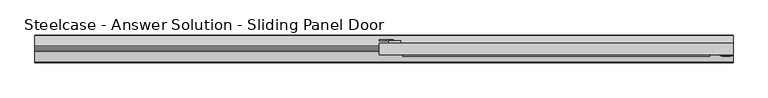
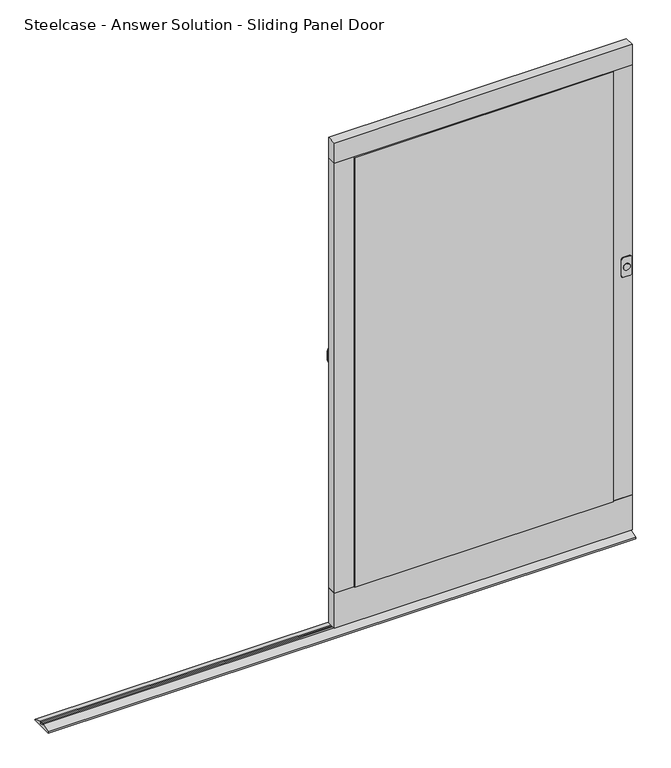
"""IFC4 building model written with IfcOpenShell, lengths in millimetres: furniture geometry."""

from ifc_helpers import new_model, si_unit, point, frame, frame_2d, origin, place, context, project, spatial, polyline, circle_curve, trimmed, segment, composite_curve, outline, extrude, source, transform, mapped, element, save


def steelcase_answer_solution_sliding_panel_door_c059b9e7(model_context):
    return source(origin(), model_context, "Body", "SweptSolid", [
        extrude(outline(composite_curve([segment(trimmed(circle_curve(frame_2d((927.0989028, 1835.4278402)), 10.7468772), [point((927.0989028, 1846.1747174))], [point((927.0989028, 1824.680963))], False, "CARTESIAN"), True, "CONTINUOUS"), segment(trimmed(circle_curve(frame_2d((927.0989028, 1835.4278402)), 10.7468772), [point((927.0989028, 1824.680963))], [point((927.0989028, 1846.1747174))], False, "CARTESIAN"), True, "CONTINUOUS")], self_intersect=False)), frame((0.0, -58.27776, 0.0), z_axis=(0.0, 1.0, 0.0), x_axis=(0.0, 0.0, 1.0)), (0.0, 0.0, 1.0), 2.159),
        extrude(outline(composite_curve([segment(polyline([(958.8489028, 927.2675713), (958.8489028, 908.2175713)]), True, "CONTINUOUS"), segment(trimmed(circle_curve(frame_2d((939.7989028, 908.2175713)), 19.05), [point((958.8489028, 908.2175713))], [point((939.7989028, 889.1675713))], False, "CARTESIAN"), True, "CONTINUOUS"), segment(polyline([(939.7989028, 889.1675713), (914.3989028, 889.1675713)]), True, "CONTINUOUS"), segment(trimmed(circle_curve(frame_2d((914.3989028, 908.2175713)), 19.05), [point((914.3989028, 889.1675713))], [point((895.3489028, 908.2175713))], False, "CARTESIAN"), True, "CONTINUOUS"), segment(polyline([(895.3489028, 908.2175713), (895.3489028, 927.2675713), (908.0489028, 927.2675713), (908.0489028, 908.2175713)]), True, "CONTINUOUS"), segment(trimmed(circle_curve(frame_2d((914.3989028, 908.2175713)), 6.35), [point((908.0489028, 908.2175713))], [point((914.3989028, 901.8675713))], True, "CARTESIAN"), True, "CONTINUOUS"), segment(polyline([(914.3989028, 901.8675713), (939.7989028, 901.8675713)]), True, "CONTINUOUS"), segment(trimmed(circle_curve(frame_2d((939.7989028, 908.2175713)), 6.35), [point((939.7989028, 901.8675713))], [point((946.1489028, 908.2175713))], True, "CARTESIAN"), True, "CONTINUOUS"), segment(polyline([(946.1489028, 908.2175713), (946.1489028, 927.2675713), (958.8489028, 927.2675713)]), True, "CONTINUOUS")], self_intersect=False)), frame((0.0, -15.6057635, 0.0), z_axis=(0.0, 1.0, 0.0), x_axis=(0.0, 0.0, 1.0)), (0.0, 0.0, 1.0), 2.032),
        extrude(outline(composite_curve([segment(polyline([(960.7539028, 1845.3735), (960.7539028, 1825.0535)]), True, "CONTINUOUS"), segment(trimmed(circle_curve(frame_2d((954.4039028, 1825.0535)), 6.35), [point((960.7539028, 1825.0535))], [point((954.4039028, 1818.7035))], False, "CARTESIAN"), True, "CONTINUOUS"), segment(polyline([(954.4039028, 1818.7035), (899.7939028, 1818.7035)]), True, "CONTINUOUS"), segment(trimmed(circle_curve(frame_2d((899.7939028, 1825.0535)), 6.35), [point((899.7939028, 1818.7035))], [point((893.4439028, 1825.0535))], False, "CARTESIAN"), True, "CONTINUOUS"), segment(polyline([(893.4439028, 1825.0535), (893.4439028, 1845.3735)]), True, "CONTINUOUS"), segment(trimmed(circle_curve(frame_2d((899.7939028, 1845.3735)), 6.35), [point((893.4439028, 1845.3735))], [point((899.7939028, 1851.7235))], False, "CARTESIAN"), True, "CONTINUOUS"), segment(polyline([(899.7939028, 1851.7235), (954.4039028, 1851.7235)]), True, "CONTINUOUS"), segment(trimmed(circle_curve(frame_2d((954.4039028, 1845.3735)), 6.35), [point((954.4039028, 1851.7235))], [point((960.7539028, 1845.3735))], False, "CARTESIAN"), True, "CONTINUOUS")], self_intersect=False)), frame((0.0, -56.11876, 0.0), z_axis=(0.0, 1.0, 0.0), x_axis=(0.0, 0.0, 1.0)), (0.0, 0.0, 1.0), 2.1589722),
        extrude(outline(polyline([(947.42, -22.2097635), (914.4, -22.2097635), (914.4, -15.6057635), (947.42, -15.6057635), (947.42, -22.2097635)])), frame((0.0, 0.0, 828.673924), z_axis=(0.0, 0.0, 1.0), x_axis=(1.0, 0.0, 0.0)), (0.0, 0.0, 1.0), 196.85),
        extrude(outline(polyline([(1854.2, -53.9597878), (889.0, -53.9597878), (889.0, -22.2097635), (1854.2, -22.2097635), (1854.2, -53.9597878)])), frame((0.0, 0.0, 1610.3589729), z_axis=(0.0, 0.0, 1.0), x_axis=(1.0, 0.0, 0.0)), (0.0, 0.0, 1.0), 69.8499516),
        extrude(outline(polyline([(952.4999031, -53.9597878), (889.0, -53.9597878), (889.0, -22.2097635), (952.4999031, -22.2097635), (952.4999031, -53.9597878)])), frame((0.0, 0.0, 137.1589275), z_axis=(0.0, 0.0, 1.0), x_axis=(1.0, 0.0, 0.0)), (0.0, 0.0, 1.0), 1473.2000454),
        extrude(outline(polyline([(1854.2, -53.9597878), (1790.7000969, -53.9597878), (1790.7000969, -22.2097635), (1854.2, -22.2097635), (1854.2, -53.9597878)])), frame((0.0, 0.0, 137.1589275), z_axis=(0.0, 0.0, 1.0), x_axis=(1.0, 0.0, 0.0)), (0.0, 0.0, 1.0), 1473.2000454),
        extrude(outline(polyline([(1854.2, -53.9597878), (889.0, -53.9597878), (889.0, -22.2097635), (1854.2, -22.2097635), (1854.2, -53.9597878)])), frame((0.0, 0.0, 16.5089245), z_axis=(0.0, 0.0, 1.0), x_axis=(1.0, 0.0, 0.0)), (0.0, 0.0, 1.0), 120.650003),
        extrude(outline(polyline([(1790.7000969, -53.9597878), (1790.7000969, -57.7514894), (952.4999031, -57.7514894), (952.4999031, -53.9597878), (1790.7000969, -53.9597878)])), frame((0.0, 0.0, 137.1589275), z_axis=(0.0, 0.0, 1.0), x_axis=(1.0, 0.0, 0.0)), (0.0, 0.0, 1.0), 1473.2000454),
        extrude(outline(polyline([(-29.8388763, 12.2491055), (-1.9333122, 3.0138476), (0.0, 0.0), (-76.1694786, 0.0), (-74.2361664, 3.0138476), (-46.3306023, 12.2491055), (-46.3306023, 6.2879429), (-39.9806265, 6.2879429), (-39.9806265, 12.6379637), (-36.1889248, 12.6379637), (-36.1889248, 6.2879429), (-29.8388763, 6.2879429), (-29.8388763, 12.2491055)])), frame((-50.8, 0.0, 0.0), z_axis=(1.0, 0.0, 0.0), x_axis=(0.0, 1.0, 0.0)), (0.0, 0.0, 1.0), 1905.0),
    ])


if __name__ == "__main__":
    model = new_model("IFC4")
    model_context = context("Model", 3, world=origin())
    ifc_project = project(units=[si_unit("LENGTHUNIT", "METRE", prefix="MILLI")], contexts=[model_context])
    site = spatial("IfcSite", under=ifc_project)
    building = spatial("IfcBuilding", under=site)
    placement = place(None, origin())
    steelcase_answer_solution_sliding_panel_door_shape = steelcase_answer_solution_sliding_panel_door_c059b9e7(model_context)
    element("IfcFurniture", 1, ObjectType="Steelcase - Answer Solution - Sliding Panel Door : 66\" x 36\" - Left Door Hangle and Lock", at=placement, inside=building, context=model_context, shape_type="MappedRepresentation", body=[
        mapped(steelcase_answer_solution_sliding_panel_door_shape, transform((0.0, 0.0, 0.0), x_axis=(1.0, 0.0, 0.0), y_axis=(0.0, 1.0, 0.0), z_axis=(0.0, 0.0, 1.0))),
    ])
    save(model, "model.ifc")
